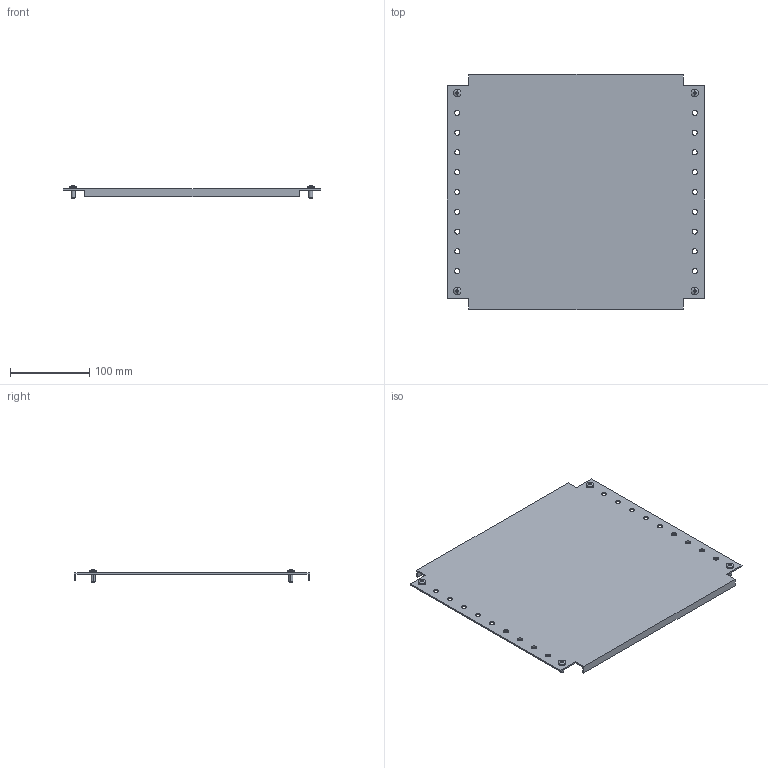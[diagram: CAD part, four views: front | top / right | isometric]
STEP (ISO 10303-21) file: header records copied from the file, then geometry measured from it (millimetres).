
FILE_DESCRIPTION (( 'STEP AP203' ), '1' );
FILE_NAME ('R6MPP03400.STEP', '2025-05-16T08:10:55', ( '' ), ( '' ), 'SwSTEP 2.0', 'SolidWorks 2022', '' );
FILE_SCHEMA (( 'CONFIG_CONTROL_DESIGN' ));
Length unit declared in the file: millimetre
Products named in the file (3): M5x12 DIN 7500 C Torx Zinc_stright; R6MPP03400; RB.3313.00.00.0 simple_-05
Assembly tree (5 placements, depth 2):
  R6MPP03400
    RB.3313.00.00.0 simple_-05
    M5x12 DIN 7500 C Torx Zinc_stright  x4
Bounding box: 325 x 298 x 15.56 mm (x, y, z)
Volume: 179778 mm3; surface area: 202699.6 mm2
Topology: 5 solids, 5 shells, 166 faces, 404 edges, 244 vertices
Faces by surface type: cylinder 60, plane 58, cone 16, torus 16, bspline 8, sphere 8
Entity records: 3647 total; most frequent: CARTESIAN_POINT 729, DIRECTION 558, ORIENTED_EDGE 504, EDGE_CURVE 252, AXIS2_PLACEMENT_3D 216, VERTEX_POINT 163, EDGE_LOOP 139, LINE 126
